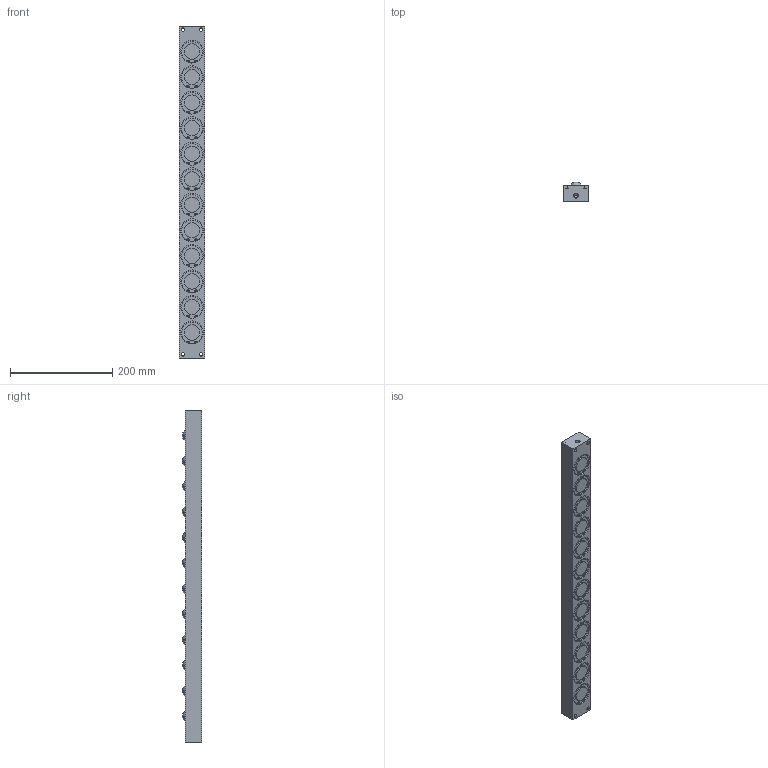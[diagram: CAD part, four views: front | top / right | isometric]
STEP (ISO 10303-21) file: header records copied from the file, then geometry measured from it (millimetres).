
FILE_DESCRIPTION (( 'STEP AP203' ), '1' );
FILE_NAME ('PVL55SL-12.STEP', '2016-01-06T00:39:57', ( '' ), ( '' ), 'SwSTEP 2.0', 'SolidWorks 2013', '' );
FILE_SCHEMA (( 'CONFIG_CONTROL_DESIGN' ));
Length unit declared in the file: millimetre
Products named in the file (1): PVL55SL-12
Bounding box: 49 x 38 x 650 mm (x, y, z)
Volume: 1003152.3 mm3; surface area: 142964.7 mm2
Topology: 1 solids, 1 shells, 501 faces, 1240 edges, 829 vertices
Faces by surface type: cylinder 330, plane 143, sphere 24, cone 4
Entity records: 15397 total; most frequent: DIRECTION 3026, CARTESIAN_POINT 2569, ORIENTED_EDGE 2476, AXIS2_PLACEMENT_3D 1286, EDGE_CURVE 1238, VERTEX_POINT 829, CIRCLE 784, EDGE_LOOP 599
